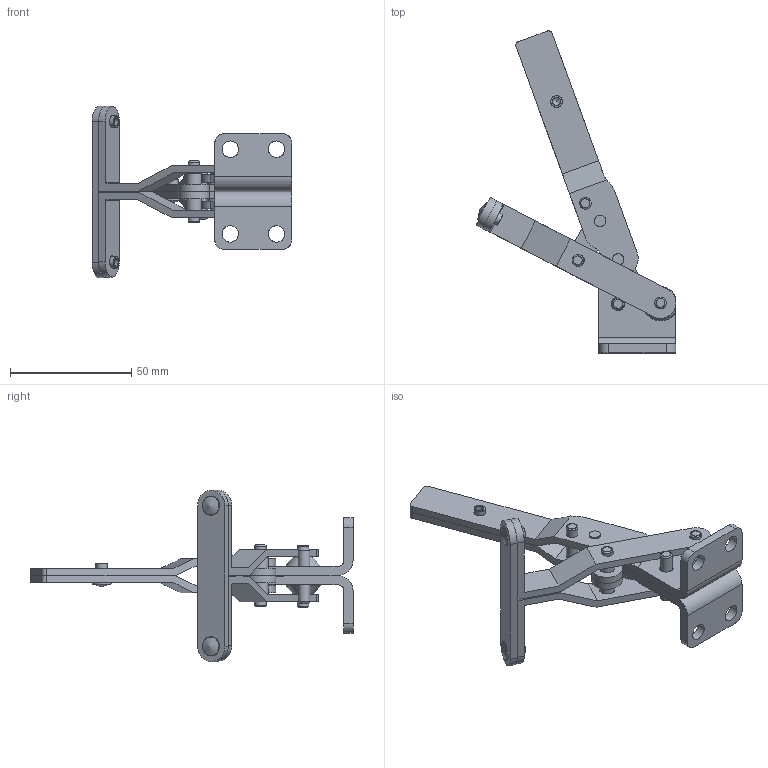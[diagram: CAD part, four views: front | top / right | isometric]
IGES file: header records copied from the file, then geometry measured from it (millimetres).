
Global section: file name: TC-200 Open; native system: Autodesk RealDWG; preprocessor: Autodesk Translation Framework DWG producer (atf_dwg_producer); author: rtaylor; organization: unknown; date: 20150915.164101; units: inch
Bounding box: 82.35 x 132.72 x 70.62 mm (x, y, z)
Volume: 36937.9 mm3; surface area: 31162 mm2
Topology: 18 solids, 18 shells, 269 faces, 683 edges, 461 vertices
Faces by surface type: bspline 269
